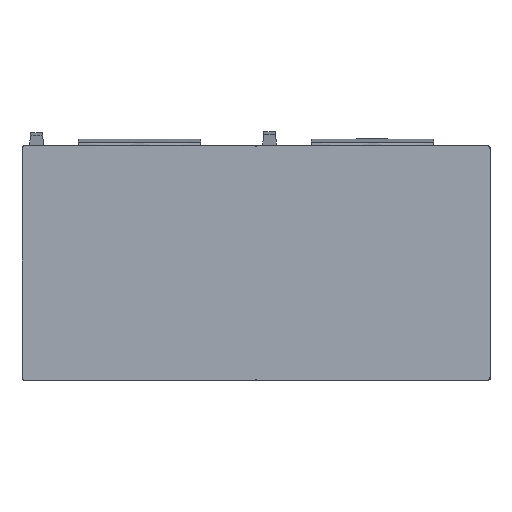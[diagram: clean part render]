
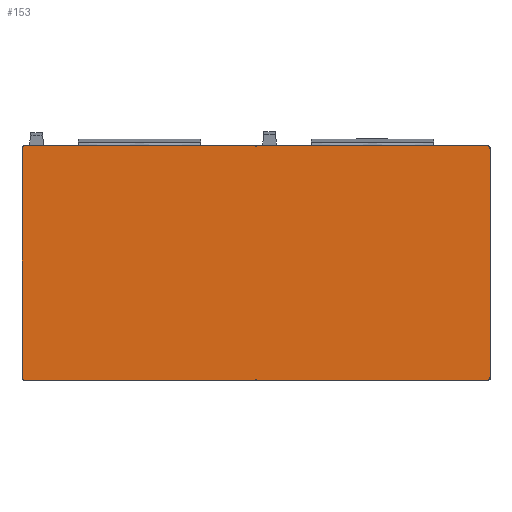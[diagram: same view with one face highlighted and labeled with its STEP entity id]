
A CAD part, front view. The second image highlights one B-rep face of the part: STEP entity #153.
In plain terms, the highlighted planar face has unit normal (0, -1, 0).
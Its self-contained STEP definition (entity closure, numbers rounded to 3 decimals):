
#153=ADVANCED_FACE('Corps de pi\X2\00E8\X0\ce.1',(#365),#366,.T.);
#365=FACE_OUTER_BOUND('',#723,.T.);
#366=PLANE('',#724);
#723=EDGE_LOOP('',(#1546,#1547,#1548,#1549,#1550,#1551,#1552,#1553,#1554,#1555,#1556,#1557,#1558,#1559));
#724=AXIS2_PLACEMENT_3D('',#1560,#1561,#1562);
#1546=ORIENTED_EDGE('',*,*,#1792,.T.);
#1547=ORIENTED_EDGE('',*,*,#1806,.T.);
#1548=ORIENTED_EDGE('',*,*,#1823,.T.);
#1549=ORIENTED_EDGE('',*,*,#1822,.T.);
#1550=ORIENTED_EDGE('',*,*,#1818,.T.);
#1551=ORIENTED_EDGE('',*,*,#1825,.T.);
#1552=ORIENTED_EDGE('',*,*,#1826,.T.);
#1553=ORIENTED_EDGE('',*,*,#1816,.T.);
#1554=ORIENTED_EDGE('',*,*,#1815,.T.);
#1555=ORIENTED_EDGE('',*,*,#1813,.T.);
#1556=ORIENTED_EDGE('',*,*,#1811,.T.);
#1557=ORIENTED_EDGE('',*,*,#1807,.T.);
#1558=ORIENTED_EDGE('',*,*,#1827,.T.);
#1559=ORIENTED_EDGE('',*,*,#1787,.T.);
#1560=CARTESIAN_POINT('',(-400.0,-221.0,300.0));
#1561=DIRECTION('',(0.0,-1.0,0.0));
#1562=DIRECTION('',(0.0,0.0,-1.0));
#1787=EDGE_CURVE('',#2203,#2201,#2204,.F.);
#1792=EDGE_CURVE('',#2201,#2210,#2212,.T.);
#1806=EDGE_CURVE('',#2210,#2236,#2238,.F.);
#1807=EDGE_CURVE('',#2239,#2240,#2241,.T.);
#1811=EDGE_CURVE('',#2244,#2239,#2246,.F.);
#1813=EDGE_CURVE('',#2247,#2244,#2249,.T.);
#1815=EDGE_CURVE('',#2250,#2247,#2252,.F.);
#1816=EDGE_CURVE('',#2253,#2250,#2254,.T.);
#1818=EDGE_CURVE('',#2256,#2257,#2258,.T.);
#1822=EDGE_CURVE('',#2261,#2256,#2263,.F.);
#1823=EDGE_CURVE('',#2236,#2261,#2264,.T.);
#1825=EDGE_CURVE('',#2257,#2265,#2267,.F.);
#1826=EDGE_CURVE('',#2265,#2253,#2268,.F.);
#1827=EDGE_CURVE('',#2240,#2203,#2269,.F.);
#2201=VERTEX_POINT('',#2984);
#2203=VERTEX_POINT('',#2987);
#2204=CIRCLE('',#2988,9.0);
#2210=VERTEX_POINT('',#2996);
#2212=LINE('',#2999,#3000);
#2236=VERTEX_POINT('',#3029);
#2238=CIRCLE('',#3032,8.6);
#2239=VERTEX_POINT('',#3033);
#2240=VERTEX_POINT('',#3034);
#2241=LINE('',#3035,#3036);
#2244=VERTEX_POINT('',#3041);
#2246=CIRCLE('',#3044,8.6);
#2247=VERTEX_POINT('',#3045);
#2249=LINE('',#3048,#3049);
#2250=VERTEX_POINT('',#3050);
#2252=CIRCLE('',#3053,8.6);
#2253=VERTEX_POINT('',#3054);
#2254=LINE('',#3055,#3056);
#2256=VERTEX_POINT('',#3059);
#2257=VERTEX_POINT('',#3060);
#2258=LINE('',#3061,#3062);
#2261=VERTEX_POINT('',#3067);
#2263=CIRCLE('',#3070,8.6);
#2264=LINE('',#3071,#3072);
#2265=VERTEX_POINT('',#3073);
#2267=CIRCLE('',#3076,9.0);
#2268=CIRCLE('',#3077,9.0);
#2269=CIRCLE('',#3078,9.0);
#2984=CARTESIAN_POINT('',(306.225,-221.0,-302.5));
#2987=CARTESIAN_POINT('',(300.0,-221.0,-300.0));
#2988=AXIS2_PLACEMENT_3D('',#3345,#3346,#3347);
#2996=CARTESIAN_POINT('',(893.9,-221.0,-302.5));
#2999=CARTESIAN_POINT('',(600.062,-221.0,-302.5));
#3000=VECTOR('',#3354,1.0);
#3029=CARTESIAN_POINT('',(902.5,-221.0,-293.9));
#3032=AXIS2_PLACEMENT_3D('',#3382,#3383,#3384);
#3033=CARTESIAN_POINT('',(-293.9,-221.0,-302.5));
#3034=CARTESIAN_POINT('',(293.775,-221.0,-302.5));
#3035=CARTESIAN_POINT('',(-0.062,-221.0,-302.5));
#3036=VECTOR('',#3385,1.0);
#3041=CARTESIAN_POINT('',(-302.5,-221.0,-293.9));
#3044=AXIS2_PLACEMENT_3D('',#3389,#3390,#3391);
#3045=CARTESIAN_POINT('',(-302.5,-221.0,293.9));
#3048=CARTESIAN_POINT('',(-302.5,-221.0,0.));
#3049=VECTOR('',#3393,1.0);
#3050=CARTESIAN_POINT('',(-293.9,-221.0,302.5));
#3053=AXIS2_PLACEMENT_3D('',#3395,#3396,#3397);
#3054=CARTESIAN_POINT('',(293.775,-221.0,302.5));
#3055=CARTESIAN_POINT('',(-0.062,-221.0,302.5));
#3056=VECTOR('',#3398,1.0);
#3059=CARTESIAN_POINT('',(893.9,-221.0,302.5));
#3060=CARTESIAN_POINT('',(306.225,-221.0,302.5));
#3061=CARTESIAN_POINT('',(600.062,-221.0,302.5));
#3062=VECTOR('',#3400,1.0);
#3067=CARTESIAN_POINT('',(902.5,-221.0,293.9));
#3070=AXIS2_PLACEMENT_3D('',#3404,#3405,#3406);
#3071=CARTESIAN_POINT('',(902.5,-221.0,0.));
#3072=VECTOR('',#3407,1.0);
#3073=CARTESIAN_POINT('',(300.0,-221.0,300.0));
#3076=AXIS2_PLACEMENT_3D('',#3409,#3410,#3411);
#3077=AXIS2_PLACEMENT_3D('',#3412,#3413,#3414);
#3078=AXIS2_PLACEMENT_3D('',#3415,#3416,#3417);
#3345=CARTESIAN_POINT('',(306.225,-221.0,-293.5));
#3346=DIRECTION('',(0.0,1.0,-0.0));
#3347=DIRECTION('',(1.0,0.0,0.0));
#3354=DIRECTION('',(1.0,0.0,0.0));
#3382=CARTESIAN_POINT('',(893.9,-221.0,-293.9));
#3383=DIRECTION('',(0.0,1.0,-0.0));
#3384=DIRECTION('',(1.0,0.0,0.0));
#3385=DIRECTION('',(1.0,0.0,0.0));
#3389=CARTESIAN_POINT('',(-293.9,-221.0,-293.9));
#3390=DIRECTION('',(0.0,1.0,-0.0));
#3391=DIRECTION('',(1.0,0.0,0.0));
#3393=DIRECTION('',(0.0,0.0,-1.0));
#3395=CARTESIAN_POINT('',(-293.9,-221.0,293.9));
#3396=DIRECTION('',(0.0,1.0,-0.0));
#3397=DIRECTION('',(1.0,0.0,0.0));
#3398=DIRECTION('',(-1.0,0.0,0.0));
#3400=DIRECTION('',(-1.0,0.0,0.0));
#3404=CARTESIAN_POINT('',(893.9,-221.0,293.9));
#3405=DIRECTION('',(0.0,1.0,-0.0));
#3406=DIRECTION('',(1.0,0.0,0.0));
#3407=DIRECTION('',(0.0,0.0,1.0));
#3409=CARTESIAN_POINT('',(306.225,-221.0,293.5));
#3410=DIRECTION('',(0.0,1.0,-0.0));
#3411=DIRECTION('',(1.0,0.0,0.0));
#3412=CARTESIAN_POINT('',(293.775,-221.0,293.5));
#3413=DIRECTION('',(0.0,1.0,-0.0));
#3414=DIRECTION('',(1.0,0.0,0.0));
#3415=CARTESIAN_POINT('',(293.775,-221.0,-293.5));
#3416=DIRECTION('',(0.0,1.0,-0.0));
#3417=DIRECTION('',(1.0,0.0,0.0));
